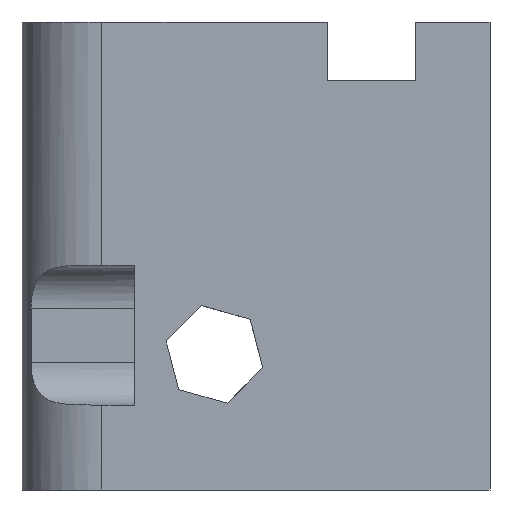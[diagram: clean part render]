
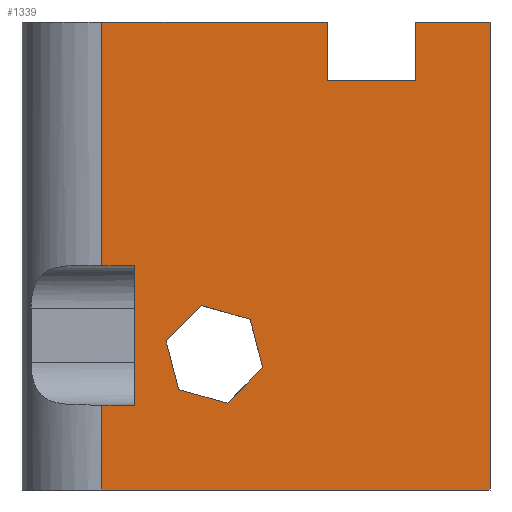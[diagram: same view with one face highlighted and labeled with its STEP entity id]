
A CAD part, left-side view. The second image highlights one B-rep face of the part: STEP entity #1339.
In plain terms, the highlighted planar face has unit normal (-1, 0, 0).
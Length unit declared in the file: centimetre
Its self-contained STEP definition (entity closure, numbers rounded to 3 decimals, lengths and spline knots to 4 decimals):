
#24 = ORIENTED_EDGE ( 'NONE', *, *, #1246, .T. ) ;
#51 = ORIENTED_EDGE ( 'NONE', *, *, #1779, .T. ) ;
#54 = VERTEX_POINT ( 'NONE', #1391 ) ;
#65 = VECTOR ( 'NONE', #129, 100. ) ;
#70 = ORIENTED_EDGE ( 'NONE', *, *, #1067, .T. ) ;
#74 = CARTESIAN_POINT ( 'NONE',  ( 0., 158.2636, 875.684 ) ) ;
#89 = CARTESIAN_POINT ( 'NONE',  ( 0., 829.459, 1000. ) ) ;
#92 = CARTESIAN_POINT ( 'NONE',  ( 0., 692.0015, 318.4365 ) ) ;
#109 = CARTESIAN_POINT ( 'NONE',  ( 0., 829.459, 1000. ) ) ;
#114 = DIRECTION ( 'NONE',  ( 0., -0.25, -0.968 ) ) ;
#117 = VECTOR ( 'NONE', #1216, 100. ) ;
#129 = DIRECTION ( 'NONE',  ( 0., 0., -1. ) ) ;
#131 = CARTESIAN_POINT ( 'NONE',  ( 0., 759.3434, 181.5854 ) ) ;
#147 = DIRECTION ( 'NONE',  ( 0., 1., 0. ) ) ;
#154 = EDGE_CURVE ( 'NONE', #1680, #406, #948, .T. ) ;
#179 = CARTESIAN_POINT ( 'NONE',  ( 0., 485.6701, 261.0424 ) ) ;
#186 = ORIENTED_EDGE ( 'NONE', *, *, #502, .T. ) ;
#188 = EDGE_LOOP ( 'NONE', ( #762, #1647, #357, #1486, #1734, #51, #319, #314, #343, #472, #70, #1250 ) ) ;
#198 = EDGE_CURVE ( 'NONE', #477, #349, #1253, .T. ) ;
#202 = LINE ( 'NONE', #179, #326 ) ;
#205 = DIRECTION ( 'NONE',  ( 0., -0.962, -0.272 ) ) ;
#211 = VERTEX_POINT ( 'NONE', #1658 ) ;
#226 = LINE ( 'NONE', #619, #1357 ) ;
#247 = CARTESIAN_POINT ( 'NONE',  ( 0., 1000., 0. ) ) ;
#257 = CARTESIAN_POINT ( 'NONE',  ( 0., 829.459, 1000. ) ) ;
#265 = VECTOR ( 'NONE', #810, 100. ) ;
#284 = LINE ( 'NONE', #131, #523 ) ;
#289 = LINE ( 'NONE', #89, #1136 ) ;
#292 = CARTESIAN_POINT ( 'NONE',  ( 0., 158.2636, 875.684 ) ) ;
#294 = LINE ( 'NONE', #991, #864 ) ;
#304 = EDGE_CURVE ( 'NONE', #465, #723, #1720, .T. ) ;
#314 = ORIENTED_EDGE ( 'NONE', *, *, #1161, .F. ) ;
#319 = ORIENTED_EDGE ( 'NONE', *, *, #1355, .T. ) ;
#326 = VECTOR ( 'NONE', #896, 100. ) ;
#343 = ORIENTED_EDGE ( 'NONE', *, *, #1296, .T. ) ;
#345 = CARTESIAN_POINT ( 'NONE',  ( 0., 0., 1000. ) ) ;
#349 = VERTEX_POINT ( 'NONE', #859 ) ;
#355 = CARTESIAN_POINT ( 'NONE',  ( 0., 759.3434, 181.5854 ) ) ;
#357 = ORIENTED_EDGE ( 'NONE', *, *, #1120, .T. ) ;
#364 = ORIENTED_EDGE ( 'NONE', *, *, #1236, .T. ) ;
#369 = VECTOR ( 'NONE', #1526, 100. ) ;
#390 = VECTOR ( 'NONE', #205, 100. ) ;
#397 = DIRECTION ( 'NONE',  ( 0., -1., 0. ) ) ;
#406 = VERTEX_POINT ( 'NONE', #1558 ) ;
#464 = DIRECTION ( 'NONE',  ( 0., -1., 0. ) ) ;
#465 = VERTEX_POINT ( 'NONE', #1592 ) ;
#472 = ORIENTED_EDGE ( 'NONE', *, *, #962, .T. ) ;
#477 = VERTEX_POINT ( 'NONE', #1748 ) ;
#484 = VECTOR ( 'NONE', #1249, 100. ) ;
#497 = PLANE ( 'NONE',  #932 ) ;
#502 = EDGE_CURVE ( 'NONE', #910, #1320, #202, .T. ) ;
#519 = VECTOR ( 'NONE', #397, 100. ) ;
#523 = VECTOR ( 'NONE', #147, 100. ) ;
#591 = CARTESIAN_POINT ( 'NONE',  ( 0., 759.3434, 480.4464 ) ) ;
#619 = CARTESIAN_POINT ( 'NONE',  ( 0., 347.2265, 875.684 ) ) ;
#622 = VERTEX_POINT ( 'NONE', #719 ) ;
#640 = VECTOR ( 'NONE', #464, 100. ) ;
#643 = CARTESIAN_POINT ( 'NONE',  ( 0., 0., 1000. ) ) ;
#679 = VERTEX_POINT ( 'NONE', #345 ) ;
#701 = DIRECTION ( 'NONE',  ( 0., 0.962, 0.272 ) ) ;
#702 = VERTEX_POINT ( 'NONE', #355 ) ;
#708 = CARTESIAN_POINT ( 'NONE',  ( 0., 829.459, 181.5854 ) ) ;
#712 = EDGE_CURVE ( 'NONE', #349, #1046, #1223, .T. ) ;
#718 = LINE ( 'NONE', #1126, #1083 ) ;
#719 = CARTESIAN_POINT ( 'NONE',  ( 0., 829.459, 0. ) ) ;
#723 = VERTEX_POINT ( 'NONE', #74 ) ;
#729 = DIRECTION ( 'NONE',  ( 1., 0., 0. ) ) ;
#731 = EDGE_CURVE ( 'NONE', #679, #919, #1650, .T. ) ;
#762 = ORIENTED_EDGE ( 'NONE', *, *, #1256, .F. ) ;
#765 = CARTESIAN_POINT ( 'NONE',  ( 0., 512.4006, 364.7351 ) ) ;
#769 = FACE_OUTER_BOUND ( 'NONE', #188, .T. ) ;
#779 = ORIENTED_EDGE ( 'NONE', *, *, #712, .T. ) ;
#797 = DIRECTION ( 'NONE',  ( 0., -0.707, 0.707 ) ) ;
#799 = LINE ( 'NONE', #1073, #484 ) ;
#810 = DIRECTION ( 'NONE',  ( 0., 0.25, 0.968 ) ) ;
#817 = CARTESIAN_POINT ( 'NONE',  ( 0., 759.3434, 480.4464 ) ) ;
#855 = EDGE_CURVE ( 'NONE', #54, #477, #1115, .T. ) ;
#859 = CARTESIAN_POINT ( 'NONE',  ( 0., 616.2861, 394.1519 ) ) ;
#861 = CARTESIAN_POINT ( 'NONE',  ( 0., 512.4006, 364.7351 ) ) ;
#864 = VECTOR ( 'NONE', #701, 100. ) ;
#882 = EDGE_LOOP ( 'NONE', ( #186, #364, #1104, #1349, #779, #24 ) ) ;
#896 = DIRECTION ( 'NONE',  ( 0., 0.707, -0.707 ) ) ;
#910 = VERTEX_POINT ( 'NONE', #1089 ) ;
#919 = VERTEX_POINT ( 'NONE', #946 ) ;
#930 = LINE ( 'NONE', #1364, #369 ) ;
#932 = AXIS2_PLACEMENT_3D ( 'NONE', #1760, #729, #1049 ) ;
#937 = CARTESIAN_POINT ( 'NONE',  ( 0., 1000., 1000. ) ) ;
#946 = CARTESIAN_POINT ( 'NONE',  ( 0., 0., 0. ) ) ;
#947 = VECTOR ( 'NONE', #1098, 100. ) ;
#948 = LINE ( 'NONE', #937, #1662 ) ;
#962 = EDGE_CURVE ( 'NONE', #1257, #622, #1245, .T. ) ;
#991 = CARTESIAN_POINT ( 'NONE',  ( 0., 561.3855, 185.327 ) ) ;
#1033 = DIRECTION ( 'NONE',  ( 0., 0., -1. ) ) ;
#1046 = VERTEX_POINT ( 'NONE', #765 ) ;
#1049 = DIRECTION ( 'NONE',  ( 0., 0., -1. ) ) ;
#1057 = VECTOR ( 'NONE', #114, 100. ) ;
#1067 = EDGE_CURVE ( 'NONE', #622, #919, #1818, .T. ) ;
#1073 = CARTESIAN_POINT ( 'NONE',  ( 0., 158.2636, 875.684 ) ) ;
#1083 = VECTOR ( 'NONE', #1569, 100. ) ;
#1089 = CARTESIAN_POINT ( 'NONE',  ( 0., 485.6701, 261.0424 ) ) ;
#1095 = VECTOR ( 'NONE', #797, 100. ) ;
#1098 = DIRECTION ( 'NONE',  ( 0., 0., -1. ) ) ;
#1104 = ORIENTED_EDGE ( 'NONE', *, *, #855, .T. ) ;
#1115 = LINE ( 'NONE', #1689, #265 ) ;
#1120 = EDGE_CURVE ( 'NONE', #723, #211, #799, .T. ) ;
#1126 = CARTESIAN_POINT ( 'NONE',  ( 0., 1000., 1000. ) ) ;
#1136 = VECTOR ( 'NONE', #1033, 100. ) ;
#1161 = EDGE_CURVE ( 'NONE', #702, #1677, #930, .T. ) ;
#1201 = VERTEX_POINT ( 'NONE', #1803 ) ;
#1216 = DIRECTION ( 'NONE',  ( 0., 0., -1. ) ) ;
#1223 = LINE ( 'NONE', #1361, #390 ) ;
#1236 = EDGE_CURVE ( 'NONE', #1320, #54, #294, .T. ) ;
#1239 = DIRECTION ( 'NONE',  ( 0., -1., 0. ) ) ;
#1245 = LINE ( 'NONE', #257, #947 ) ;
#1246 = EDGE_CURVE ( 'NONE', #1046, #910, #1560, .T. ) ;
#1249 = DIRECTION ( 'NONE',  ( 0., 1., 0. ) ) ;
#1250 = ORIENTED_EDGE ( 'NONE', *, *, #731, .F. ) ;
#1253 = LINE ( 'NONE', #92, #1095 ) ;
#1256 = EDGE_CURVE ( 'NONE', #465, #679, #718, .T. ) ;
#1257 = VERTEX_POINT ( 'NONE', #708 ) ;
#1296 = EDGE_CURVE ( 'NONE', #702, #1257, #284, .T. ) ;
#1319 = FACE_BOUND ( 'NONE', #882, .T. ) ;
#1320 = VERTEX_POINT ( 'NONE', #1479 ) ;
#1339 = ADVANCED_FACE ( 'NONE', ( #1319, #769 ), #497, .F. ) ;
#1349 = ORIENTED_EDGE ( 'NONE', *, *, #198, .T. ) ;
#1355 = EDGE_CURVE ( 'NONE', #1201, #1677, #1442, .T. ) ;
#1357 = VECTOR ( 'NONE', #1599, 100. ) ;
#1361 = CARTESIAN_POINT ( 'NONE',  ( 0., 616.2861, 394.1519 ) ) ;
#1364 = CARTESIAN_POINT ( 'NONE',  ( 0., 759.3434, 1000. ) ) ;
#1391 = CARTESIAN_POINT ( 'NONE',  ( 0., 665.271, 214.7438 ) ) ;
#1442 = LINE ( 'NONE', #591, #640 ) ;
#1479 = CARTESIAN_POINT ( 'NONE',  ( 0., 561.3855, 185.327 ) ) ;
#1486 = ORIENTED_EDGE ( 'NONE', *, *, #1763, .T. ) ;
#1526 = DIRECTION ( 'NONE',  ( 0., 0., 1. ) ) ;
#1558 = CARTESIAN_POINT ( 'NONE',  ( 0., 347.2265, 1000. ) ) ;
#1560 = LINE ( 'NONE', #861, #1057 ) ;
#1569 = DIRECTION ( 'NONE',  ( 0., -1., 0. ) ) ;
#1592 = CARTESIAN_POINT ( 'NONE',  ( 0., 158.2636, 1000. ) ) ;
#1599 = DIRECTION ( 'NONE',  ( 0., 0., 1. ) ) ;
#1647 = ORIENTED_EDGE ( 'NONE', *, *, #304, .T. ) ;
#1650 = LINE ( 'NONE', #643, #117 ) ;
#1658 = CARTESIAN_POINT ( 'NONE',  ( 0., 347.2265, 875.684 ) ) ;
#1662 = VECTOR ( 'NONE', #1239, 100. ) ;
#1677 = VERTEX_POINT ( 'NONE', #817 ) ;
#1680 = VERTEX_POINT ( 'NONE', #109 ) ;
#1689 = CARTESIAN_POINT ( 'NONE',  ( 0., 665.271, 214.7438 ) ) ;
#1720 = LINE ( 'NONE', #292, #65 ) ;
#1734 = ORIENTED_EDGE ( 'NONE', *, *, #154, .F. ) ;
#1748 = CARTESIAN_POINT ( 'NONE',  ( 0., 692.0015, 318.4365 ) ) ;
#1760 = CARTESIAN_POINT ( 'NONE',  ( 0., 1000., 1000. ) ) ;
#1763 = EDGE_CURVE ( 'NONE', #211, #406, #226, .T. ) ;
#1779 = EDGE_CURVE ( 'NONE', #1680, #1201, #289, .T. ) ;
#1803 = CARTESIAN_POINT ( 'NONE',  ( 0., 829.459, 480.4464 ) ) ;
#1818 = LINE ( 'NONE', #247, #519 ) ;
